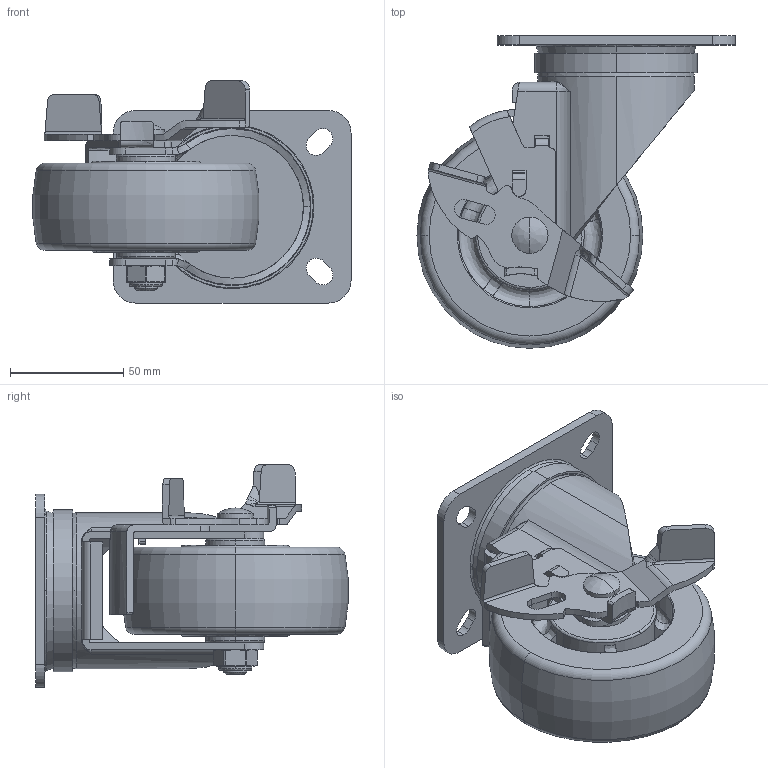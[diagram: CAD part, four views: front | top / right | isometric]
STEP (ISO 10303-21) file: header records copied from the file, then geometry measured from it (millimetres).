
FILE_DESCRIPTION (( 'STEP AP214' ), '1' );
FILE_NAME ('64124C-644-76 す階耜价.STEP', '2019-12-21T04:34:30', ( 'Owner' ), ( 'Organization' ), 'SwSTEP 2.0', 'SolidWorks 2014', '' );
FILE_SCHEMA (( 'AUTOMOTIVE_DESIGN' ));
Length unit declared in the file: millimetre
Products named in the file (9): 6410-502A 耜价; 630-01 侐源; 64124C-644-76 す階耜价; 630-34; 644-323A 耜价; 4渡耜价_す階; 耜价陬蹟裝; 644-76; 6414-503
Assembly tree (8 placements, depth 3):
  64124C-644-76 す階耜价
    630-01 侐源
    4渡耜价_す階
      630-34
      644-323A 耜价
      6410-502A 耜价
      6414-503
      耜价陬蹟裝
    644-76
Bounding box: 140.32 x 137.82 x 98 mm (x, y, z)
Volume: 367055.7 mm3; surface area: 113855.8 mm2
Topology: 8 solids, 8 shells, 430 faces, 1147 edges, 747 vertices
Faces by surface type: cylinder 147, plane 143, bspline 93, cone 27, torus 20
Entity records: 63588 total; most frequent: CARTESIAN_POINT 52944, ORIENTED_EDGE 2290, DIRECTION 2040, EDGE_CURVE 1145, AXIS2_PLACEMENT_3D 796, VERTEX_POINT 747, EDGE_LOOP 474, LINE 448
